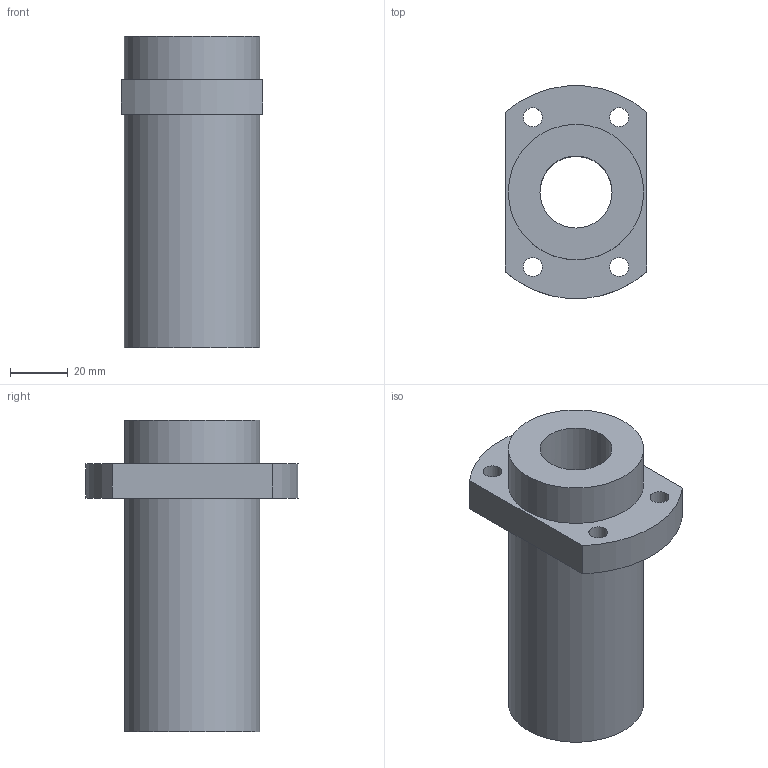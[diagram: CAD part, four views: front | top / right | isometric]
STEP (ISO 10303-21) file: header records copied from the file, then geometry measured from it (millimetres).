
FILE_DESCRIPTION(('FreeCAD Model'),'2;1');
FILE_NAME('Open CASCADE Shape Model','2025-04-30T09:56:15',('Author'),( ''),'Open CASCADE STEP processor 7.5','FreeCAD','Unknown');
FILE_SCHEMA(('AUTOMOTIVE_DESIGN { 1 0 10303 214 1 1 1 1 }'));
Length unit declared in the file: millimetre
Products named in the file (1): cgr2550sfyd3_96960-
Bounding box: 49 x 73.88 x 108 mm (x, y, z)
Volume: 151702 mm3; surface area: 31963.6 mm2
Topology: 1 solids, 1 shells, 23 faces, 51 edges, 33 vertices
Faces by surface type: cylinder 13, plane 7, cone 3
Full cylindrical faces by diameter (mm): 3 x1, 4.918 x2, 6 x1, 6.6 x4, 25 x1, 47 x2
Entity records: 1855 total; most frequent: CARTESIAN_POINT 763, DIRECTION 206, ORIENTED_EDGE 102, PCURVE 102, DEFINITIONAL_REPRESENTATION 102, LINE 97, VECTOR 97, EDGE_CURVE 51
